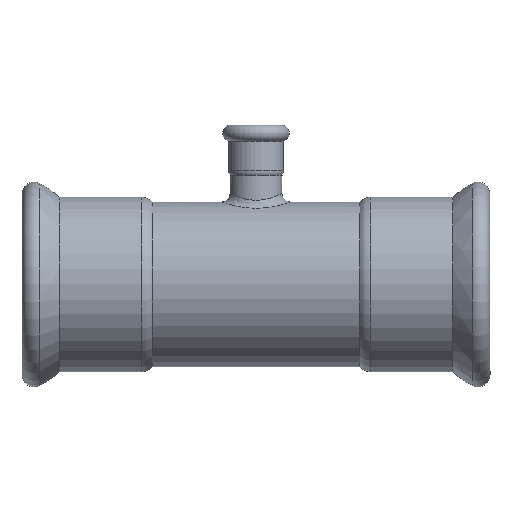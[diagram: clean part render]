
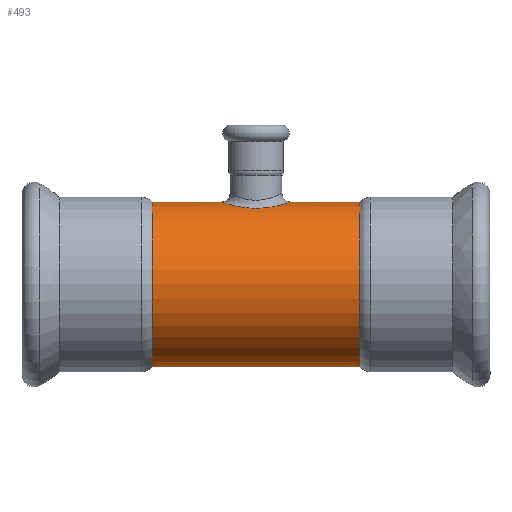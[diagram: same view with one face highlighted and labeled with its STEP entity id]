
A CAD part, front view. The second image highlights one B-rep face of the part: STEP entity #493.
In plain terms, the highlighted cylindrical face has radius 38.05 mm (diameter 76.1 mm), a full revolution.
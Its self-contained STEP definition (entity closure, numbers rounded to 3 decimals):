
#20=B_SPLINE_CURVE_WITH_KNOTS($,3,(#1190,#1191,#1192,#1193,#1194,#1195,
#1196,#1197,#1198,#1199,#1200,#1201,#1202,#1203,#1204,#1205,#1206,#1207,
#1208,#1209,#1210,#1211,#1212),.UNSPECIFIED.,.T.,.F.,(4,3,1,1,1,1,1,1,1,
1,1,1,1,1,1,1,1,1,4),(-7.286,-7.286,-6.766,
-6.246,-5.725,-5.205,-4.684,
-4.164,-3.817,-3.47,-3.123,
-2.776,-2.429,-2.082,-1.561,-1.041,
-0.52,-0.26,0.),
 .UNSPECIFIED.);
#40=CYLINDRICAL_SURFACE($,#565,38.05);
#66=FACE_BOUND($,#171,.T.);
#67=FACE_BOUND($,#172,.T.);
#111=FACE_OUTER_BOUND($,#170,.T.);
#170=EDGE_LOOP($,(#411));
#171=EDGE_LOOP($,(#412));
#172=EDGE_LOOP($,(#413));
#242=CIRCLE($,#566,38.05);
#243=CIRCLE($,#567,38.05);
#287=VERTEX_POINT($,#1164);
#289=VERTEX_POINT($,#1215);
#290=VERTEX_POINT($,#1217);
#339=EDGE_CURVE($,#287,#287,#20,.T.);
#340=EDGE_CURVE($,#289,#289,#242,.T.);
#341=EDGE_CURVE($,#290,#290,#243,.T.);
#411=ORIENTED_EDGE($,*,*,#340,.F.);
#412=ORIENTED_EDGE($,*,*,#341,.T.);
#413=ORIENTED_EDGE($,*,*,#339,.F.);
#493=ADVANCED_FACE($,(#111,#66,#67),#40,.T.);
#565=AXIS2_PLACEMENT_3D($,#1214,#699,#700);
#566=AXIS2_PLACEMENT_3D($,#1216,#701,#702);
#567=AXIS2_PLACEMENT_3D($,#1218,#703,#704);
#699=DIRECTION('center_axis',(1.,0.,0.));
#700=DIRECTION('ref_axis',(0.,1.,0.));
#701=DIRECTION('center_axis',(1.,0.,0.));
#702=DIRECTION('ref_axis',(0.,1.,0.));
#703=DIRECTION('center_axis',(1.,0.,0.));
#704=DIRECTION('ref_axis',(0.,1.,0.));
#1164=CARTESIAN_POINT('',(-108.,-14.478,35.188));
#1190=CARTESIAN_POINT('Ctrl Pts',(-108.,-14.479,35.187));
#1191=CARTESIAN_POINT('Ctrl Pts',(-108.,-14.479,35.187));
#1192=CARTESIAN_POINT('Ctrl Pts',(-108.,-14.479,35.187));
#1193=CARTESIAN_POINT('Ctrl Pts',(-107.999,-14.479,35.187));
#1194=CARTESIAN_POINT('Ctrl Pts',(-105.597,-14.48,35.187));
#1195=CARTESIAN_POINT('Ctrl Pts',(-100.766,-13.458,35.63));
#1196=CARTESIAN_POINT('Ctrl Pts',(-95.108,-9.365,37.009));
#1197=CARTESIAN_POINT('Ctrl Pts',(-91.87,-3.387,38.091));
#1198=CARTESIAN_POINT('Ctrl Pts',(-91.867,3.377,38.095));
#1199=CARTESIAN_POINT('Ctrl Pts',(-95.088,9.344,37.01));
#1200=CARTESIAN_POINT('Ctrl Pts',(-100.142,13.004,35.786));
#1201=CARTESIAN_POINT('Ctrl Pts',(-105.539,14.53,35.168));
#1202=CARTESIAN_POINT('Ctrl Pts',(-110.449,14.535,35.165));
#1203=CARTESIAN_POINT('Ctrl Pts',(-115.08,13.223,35.697));
#1204=CARTESIAN_POINT('Ctrl Pts',(-119.048,10.768,36.538));
#1205=CARTESIAN_POINT('Ctrl Pts',(-122.036,7.384,37.391));
#1206=CARTESIAN_POINT('Ctrl Pts',(-124.134,2.629,38.092));
#1207=CARTESIAN_POINT('Ctrl Pts',(-124.127,-3.381,38.092));
#1208=CARTESIAN_POINT('Ctrl Pts',(-120.906,-9.357,37.009));
#1209=CARTESIAN_POINT('Ctrl Pts',(-116.167,-12.775,35.862));
#1210=CARTESIAN_POINT('Ctrl Pts',(-111.632,-14.227,35.293));
#1211=CARTESIAN_POINT('Ctrl Pts',(-109.201,-14.479,35.187));
#1212=CARTESIAN_POINT('Ctrl Pts',(-108.,-14.479,35.187));
#1214=CARTESIAN_POINT('Origin',(-67.344,0.,0.));
#1215=CARTESIAN_POINT('',(-60.187,38.05,0.));
#1216=CARTESIAN_POINT('Origin',(-60.187,0.,0.));
#1217=CARTESIAN_POINT('',(-155.813,38.05,0.));
#1218=CARTESIAN_POINT('Origin',(-155.813,0.,0.));
